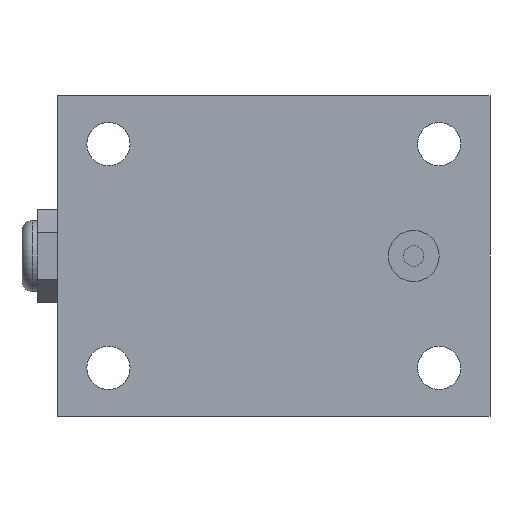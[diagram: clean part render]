
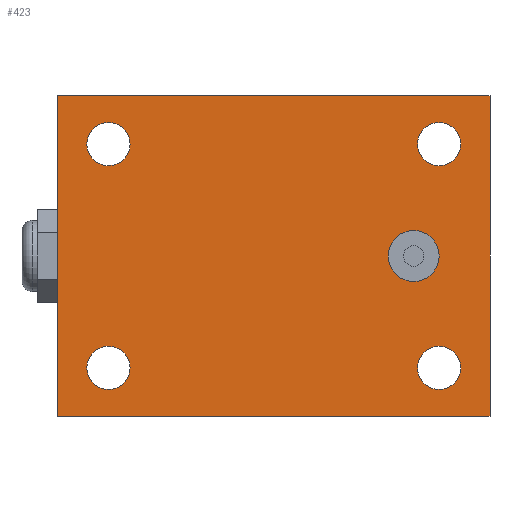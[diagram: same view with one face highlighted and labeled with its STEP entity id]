
A CAD part, front view. The second image highlights one B-rep face of the part: STEP entity #423.
In plain terms, the highlighted planar face has unit normal (0, -1, 0).
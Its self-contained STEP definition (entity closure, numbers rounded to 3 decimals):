
#1 = VERTEX_POINT ( 'NONE', #1018 ) ;
#2 = DIRECTION ( 'NONE',  ( 0., 1., 0. ) ) ;
#9 = VECTOR ( 'NONE', #40, 1000. ) ;
#16 = ORIENTED_EDGE ( 'NONE', *, *, #413, .T. ) ;
#30 = DIRECTION ( 'NONE',  ( 0., 0., 1. ) ) ;
#38 = VERTEX_POINT ( 'NONE', #166 ) ;
#40 = DIRECTION ( 'NONE',  ( 0., 0., -1. ) ) ;
#47 = AXIS2_PLACEMENT_3D ( 'NONE', #354, #224, #1213 ) ;
#57 = CARTESIAN_POINT ( 'NONE',  ( 27.5, 0., 0. ) ) ;
#61 = FACE_BOUND ( 'NONE', #358, .T. ) ;
#62 = VECTOR ( 'NONE', #734, 1000. ) ;
#67 = EDGE_CURVE ( 'NONE', #1578, #410, #426, .T. ) ;
#75 = ORIENTED_EDGE ( 'NONE', *, *, #1503, .F. ) ;
#93 = AXIS2_PLACEMENT_3D ( 'NONE', #1059, #1590, #470 ) ;
#96 = LINE ( 'NONE', #964, #62 ) ;
#101 = AXIS2_PLACEMENT_3D ( 'NONE', #1438, #939, #1573 ) ;
#114 = CIRCLE ( 'NONE', #925, 4.25 ) ;
#131 = EDGE_LOOP ( 'NONE', ( #16, #881 ) ) ;
#149 = ORIENTED_EDGE ( 'NONE', *, *, #793, .F. ) ;
#159 = CIRCLE ( 'NONE', #563, 5. ) ;
#166 = CARTESIAN_POINT ( 'NONE',  ( -42.5, 0., 31.5 ) ) ;
#224 = DIRECTION ( 'NONE',  ( 0., 1., 0. ) ) ;
#228 = ORIENTED_EDGE ( 'NONE', *, *, #241, .T. ) ;
#241 = EDGE_CURVE ( 'NONE', #503, #1470, #1103, .T. ) ;
#249 = ORIENTED_EDGE ( 'NONE', *, *, #997, .F. ) ;
#256 = DIRECTION ( 'NONE',  ( 0., 0., 1. ) ) ;
#260 = CARTESIAN_POINT ( 'NONE',  ( -42.5, 0., -31.5 ) ) ;
#328 = DIRECTION ( 'NONE',  ( 0., 0., 1. ) ) ;
#333 = VERTEX_POINT ( 'NONE', #944 ) ;
#344 = DIRECTION ( 'NONE',  ( 0., 0., 1. ) ) ;
#346 = AXIS2_PLACEMENT_3D ( 'NONE', #1584, #830, #328 ) ;
#354 = CARTESIAN_POINT ( 'NONE',  ( 0., 0., 0. ) ) ;
#358 = EDGE_LOOP ( 'NONE', ( #1405, #795 ) ) ;
#368 = DIRECTION ( 'NONE',  ( 0., 0., 1. ) ) ;
#393 = EDGE_LOOP ( 'NONE', ( #812, #554, #249, #75 ) ) ;
#410 = VERTEX_POINT ( 'NONE', #1092 ) ;
#413 = EDGE_CURVE ( 'NONE', #665, #533, #1416, .T. ) ;
#423 = ADVANCED_FACE ( 'NONE', ( #1060, #564, #1510, #437, #61, #686 ), #1459, .F. ) ;
#426 = LINE ( 'NONE', #1268, #9 ) ;
#437 = FACE_BOUND ( 'NONE', #131, .T. ) ;
#470 = DIRECTION ( 'NONE',  ( 0., 0., 1. ) ) ;
#488 = CARTESIAN_POINT ( 'NONE',  ( -32.5, 0., 22. ) ) ;
#499 = DIRECTION ( 'NONE',  ( 0., 1., 0. ) ) ;
#503 = VERTEX_POINT ( 'NONE', #869 ) ;
#506 = CARTESIAN_POINT ( 'NONE',  ( -32.5, 0., -26.25 ) ) ;
#514 = ORIENTED_EDGE ( 'NONE', *, *, #1487, .T. ) ;
#524 = VERTEX_POINT ( 'NONE', #1604 ) ;
#532 = EDGE_LOOP ( 'NONE', ( #745, #514 ) ) ;
#533 = VERTEX_POINT ( 'NONE', #1346 ) ;
#535 = LINE ( 'NONE', #868, #1220 ) ;
#543 = AXIS2_PLACEMENT_3D ( 'NONE', #1001, #1269, #30 ) ;
#554 = ORIENTED_EDGE ( 'NONE', *, *, #1473, .F. ) ;
#563 = AXIS2_PLACEMENT_3D ( 'NONE', #57, #587, #1449 ) ;
#564 = FACE_BOUND ( 'NONE', #532, .T. ) ;
#587 = DIRECTION ( 'NONE',  ( 0., -1., 0. ) ) ;
#593 = EDGE_CURVE ( 'NONE', #621, #333, #1376, .T. ) ;
#599 = CARTESIAN_POINT ( 'NONE',  ( -32.5, 0., 26.25 ) ) ;
#605 = DIRECTION ( 'NONE',  ( 0., 0., 1. ) ) ;
#621 = VERTEX_POINT ( 'NONE', #506 ) ;
#627 = CIRCLE ( 'NONE', #93, 4.25 ) ;
#629 = CARTESIAN_POINT ( 'NONE',  ( 32.5, 0., -22. ) ) ;
#665 = VERTEX_POINT ( 'NONE', #599 ) ;
#686 = FACE_OUTER_BOUND ( 'NONE', #393, .T. ) ;
#710 = CIRCLE ( 'NONE', #346, 4.25 ) ;
#733 = CIRCLE ( 'NONE', #1179, 5. ) ;
#734 = DIRECTION ( 'NONE',  ( 1., 0., 0. ) ) ;
#745 = ORIENTED_EDGE ( 'NONE', *, *, #1593, .T. ) ;
#758 = DIRECTION ( 'NONE',  ( 0., -1., 0. ) ) ;
#763 = CARTESIAN_POINT ( 'NONE',  ( 42.5, 0., 31.5 ) ) ;
#793 = EDGE_CURVE ( 'NONE', #1409, #524, #733, .T. ) ;
#795 = ORIENTED_EDGE ( 'NONE', *, *, #593, .T. ) ;
#805 = VERTEX_POINT ( 'NONE', #989 ) ;
#812 = ORIENTED_EDGE ( 'NONE', *, *, #67, .F. ) ;
#827 = EDGE_LOOP ( 'NONE', ( #228, #985 ) ) ;
#830 = DIRECTION ( 'NONE',  ( 0., 1., 0. ) ) ;
#836 = DIRECTION ( 'NONE',  ( 0., 1., 0. ) ) ;
#840 = CARTESIAN_POINT ( 'NONE',  ( -32.5, 0., -22. ) ) ;
#849 = DIRECTION ( 'NONE',  ( -1., 0., 0. ) ) ;
#868 = CARTESIAN_POINT ( 'NONE',  ( -42.5, 0., -31.5 ) ) ;
#869 = CARTESIAN_POINT ( 'NONE',  ( 32.5, 0., 26.25 ) ) ;
#881 = ORIENTED_EDGE ( 'NONE', *, *, #1118, .T. ) ;
#891 = CIRCLE ( 'NONE', #933, 4.25 ) ;
#925 = AXIS2_PLACEMENT_3D ( 'NONE', #488, #2, #256 ) ;
#933 = AXIS2_PLACEMENT_3D ( 'NONE', #629, #1603, #605 ) ;
#939 = DIRECTION ( 'NONE',  ( 0., 1., 0. ) ) ;
#940 = EDGE_CURVE ( 'NONE', #333, #621, #627, .T. ) ;
#944 = CARTESIAN_POINT ( 'NONE',  ( -32.5, 0., -17.75 ) ) ;
#954 = ORIENTED_EDGE ( 'NONE', *, *, #1361, .F. ) ;
#964 = CARTESIAN_POINT ( 'NONE',  ( -42.5, 0., 31.5 ) ) ;
#968 = CARTESIAN_POINT ( 'NONE',  ( 27.5, 0., 5. ) ) ;
#972 = EDGE_CURVE ( 'NONE', #1470, #503, #710, .T. ) ;
#985 = ORIENTED_EDGE ( 'NONE', *, *, #972, .T. ) ;
#989 = CARTESIAN_POINT ( 'NONE',  ( 32.5, 0., -26.25 ) ) ;
#997 = EDGE_CURVE ( 'NONE', #1116, #38, #1505, .T. ) ;
#1001 = CARTESIAN_POINT ( 'NONE',  ( 32.5, 0., -22. ) ) ;
#1018 = CARTESIAN_POINT ( 'NONE',  ( 32.5, 0., -17.75 ) ) ;
#1058 = CIRCLE ( 'NONE', #543, 4.25 ) ;
#1059 = CARTESIAN_POINT ( 'NONE',  ( -32.5, 0., -22. ) ) ;
#1060 = FACE_BOUND ( 'NONE', #1135, .T. ) ;
#1075 = VECTOR ( 'NONE', #1610, 1000. ) ;
#1092 = CARTESIAN_POINT ( 'NONE',  ( 42.5, 0., -31.5 ) ) ;
#1103 = CIRCLE ( 'NONE', #101, 4.25 ) ;
#1105 = CARTESIAN_POINT ( 'NONE',  ( -32.5, 0., 22. ) ) ;
#1116 = VERTEX_POINT ( 'NONE', #260 ) ;
#1118 = EDGE_CURVE ( 'NONE', #533, #665, #114, .T. ) ;
#1135 = EDGE_LOOP ( 'NONE', ( #954, #149 ) ) ;
#1179 = AXIS2_PLACEMENT_3D ( 'NONE', #1266, #758, #1256 ) ;
#1213 = DIRECTION ( 'NONE',  ( 0., 0., 1. ) ) ;
#1220 = VECTOR ( 'NONE', #849, 1000. ) ;
#1256 = DIRECTION ( 'NONE',  ( 0., 0., -1. ) ) ;
#1266 = CARTESIAN_POINT ( 'NONE',  ( 27.5, 0., 0. ) ) ;
#1268 = CARTESIAN_POINT ( 'NONE',  ( 42.5, 0., -31.5 ) ) ;
#1269 = DIRECTION ( 'NONE',  ( 0., 1., 0. ) ) ;
#1346 = CARTESIAN_POINT ( 'NONE',  ( -32.5, 0., 17.75 ) ) ;
#1361 = EDGE_CURVE ( 'NONE', #524, #1409, #159, .T. ) ;
#1376 = CIRCLE ( 'NONE', #1404, 4.25 ) ;
#1404 = AXIS2_PLACEMENT_3D ( 'NONE', #840, #499, #344 ) ;
#1405 = ORIENTED_EDGE ( 'NONE', *, *, #940, .T. ) ;
#1409 = VERTEX_POINT ( 'NONE', #968 ) ;
#1416 = CIRCLE ( 'NONE', #1551, 4.25 ) ;
#1438 = CARTESIAN_POINT ( 'NONE',  ( 32.5, 0., 22. ) ) ;
#1449 = DIRECTION ( 'NONE',  ( 0., 0., -1. ) ) ;
#1450 = CARTESIAN_POINT ( 'NONE',  ( -42.5, 0., -31.5 ) ) ;
#1459 = PLANE ( 'NONE',  #47 ) ;
#1470 = VERTEX_POINT ( 'NONE', #1492 ) ;
#1473 = EDGE_CURVE ( 'NONE', #38, #1578, #96, .T. ) ;
#1487 = EDGE_CURVE ( 'NONE', #805, #1, #891, .T. ) ;
#1492 = CARTESIAN_POINT ( 'NONE',  ( 32.5, 0., 17.75 ) ) ;
#1503 = EDGE_CURVE ( 'NONE', #410, #1116, #535, .T. ) ;
#1505 = LINE ( 'NONE', #1450, #1075 ) ;
#1510 = FACE_BOUND ( 'NONE', #827, .T. ) ;
#1551 = AXIS2_PLACEMENT_3D ( 'NONE', #1105, #836, #368 ) ;
#1573 = DIRECTION ( 'NONE',  ( 0., 0., 1. ) ) ;
#1578 = VERTEX_POINT ( 'NONE', #763 ) ;
#1584 = CARTESIAN_POINT ( 'NONE',  ( 32.5, 0., 22. ) ) ;
#1590 = DIRECTION ( 'NONE',  ( 0., 1., 0. ) ) ;
#1593 = EDGE_CURVE ( 'NONE', #1, #805, #1058, .T. ) ;
#1603 = DIRECTION ( 'NONE',  ( 0., 1., 0. ) ) ;
#1604 = CARTESIAN_POINT ( 'NONE',  ( 27.5, 0., -5. ) ) ;
#1610 = DIRECTION ( 'NONE',  ( 0., 0., 1. ) ) ;
